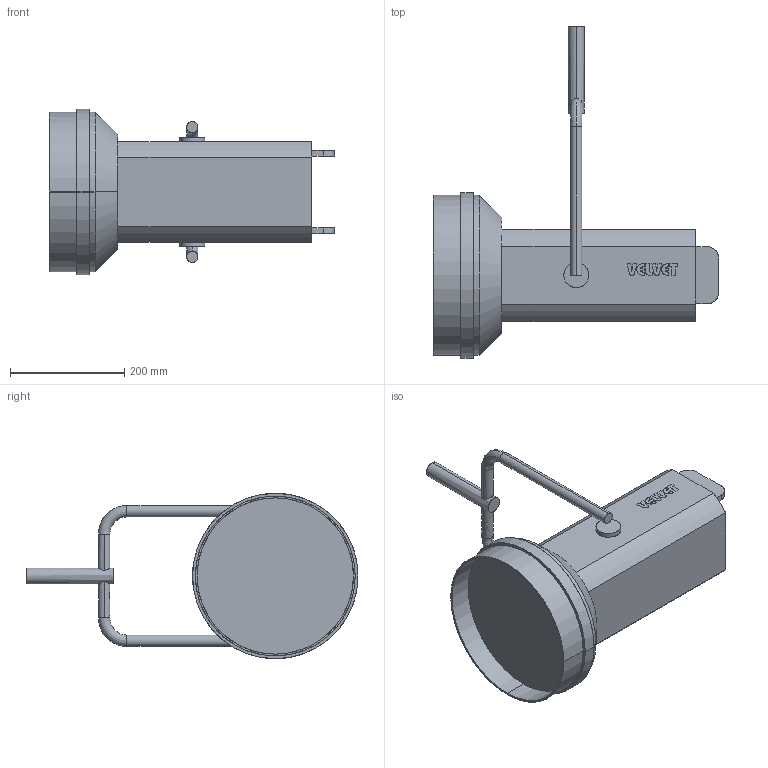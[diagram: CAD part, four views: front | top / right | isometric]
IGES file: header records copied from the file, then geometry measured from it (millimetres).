
Start section: SolidWorks IGES file using analytic representation for surfaces
Global section: file name: C:\Users\Eddy\Desktop\KOSMOS 200.IGS; native system: SolidWorks 2023; preprocessor: SolidWorks 2023; author: Eddy; date: 240715.141030; units: millimetre
Bounding box: 500 x 582 x 290 mm (x, y, z)
Surface area: 539862.4 mm2 (no closed solid volume)
Topology: 0 solids, 0 shells, 293 faces, 4322 edges, 4322 vertices
Faces by surface type: bspline 261, revolution 32
